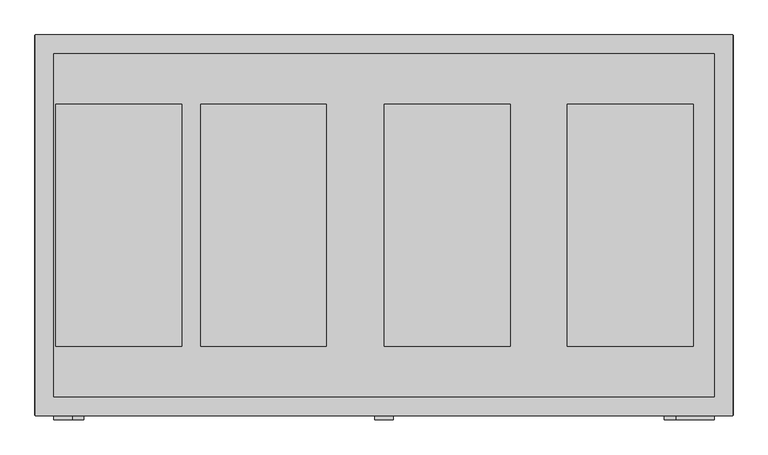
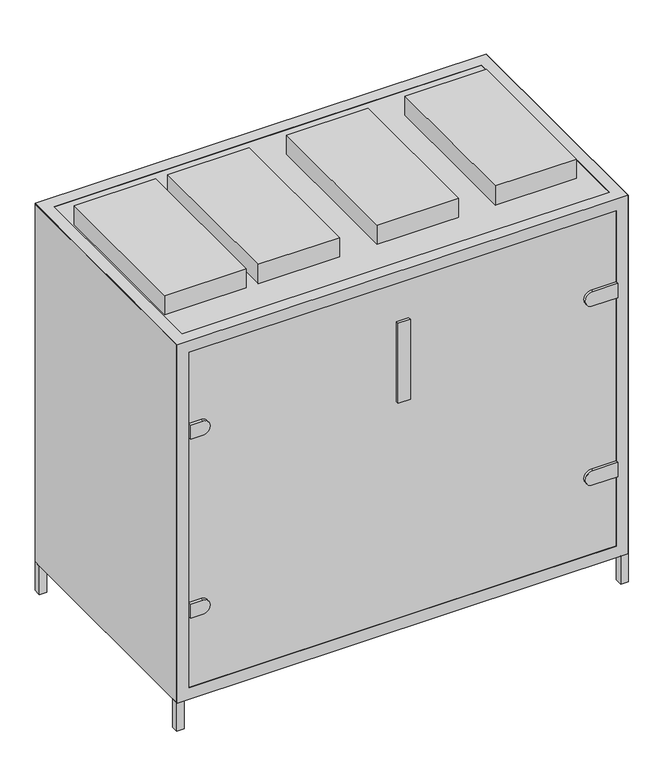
"""IFC4 building model written with IfcOpenShell, lengths in millimetres: proxy geometry, AVS 2200...3800-V-RC(RG) : AVS 2200-V-RG."""

from ifc_helpers import new_model, si_unit, point, frame, frame_2d, origin, origin_with_axes, place, context, project, spatial, polyline, circle_curve, trimmed, segment, composite_curve, outline, extrude, faceted_brep, source, transform, mapped, element, save


def mechanical_equipment_b3972196(model_context):
    return source(origin(), model_context, "Body", "SolidModel", [
        extrude(outline(polyline([(725.0, 408.0), (750.0, 408.0), (750.0, 383.0), (725.0, 383.0), (725.0, 408.0)])), origin_with_axes(), (0.0, 0.0, 1.0), 100.0),
        extrude(outline(polyline([(725.0, -408.0), (725.0, -383.0), (750.0, -383.0), (750.0, -408.0), (725.0, -408.0)])), origin_with_axes(), (0.0, 0.0, 1.0), 100.0),
        extrude(outline(polyline([(-750.0, 383.0), (-750.0, 408.0), (-725.0, 408.0), (-725.0, 383.0), (-750.0, 383.0)])), origin_with_axes(), (0.0, 0.0, 1.0), 100.0),
        extrude(outline(polyline([(-750.0, -383.0), (-725.0, -383.0), (-725.0, -408.0), (-750.0, -408.0), (-750.0, -383.0)])), origin_with_axes(), (0.0, 0.0, 1.0), 100.0),
        faceted_brep([(749.0, 409.0, 1358.0), (-749.0, 409.0, 1358.0), (-749.0, -409.0, 1358.0), (749.0, -409.0, 1358.0), (-710.0, 368.0, 1358.0), (20.0, 368.0, 1358.0), (710.0, 368.0, 1358.0), (710.0, -368.0, 1358.0), (20.0, -368.0, 1358.0), (-710.0, -368.0, 1358.0), (749.0, 409.0, 99.0), (749.0, -409.0, 99.0), (-749.0, -409.0, 99.0), (-749.0, 409.0, 99.0), (20.0, 368.0, 99.0), (-710.0, 368.0, 99.0), (-710.0, -368.0, 99.0), (20.0, -368.0, 99.0), (710.0, -368.0, 99.0), (710.0, 368.0, 99.0), (20.0, 409.0, 1317.0), (-710.0, 409.0, 1317.0), (-710.0, 409.0, 140.0), (20.0, 409.0, 140.0), (710.0, 409.0, 140.0), (710.0, 409.0, 1317.0), (-749.0, -368.0, 1317.0), (-749.0, -368.0, 140.0), (-749.0, 368.0, 140.0), (-749.0, 368.0, 1317.0), (-710.0, -409.0, 1317.0), (20.0, -409.0, 1317.0), (710.0, -409.0, 1317.0), (710.0, -409.0, 140.0), (20.0, -409.0, 140.0), (-710.0, -409.0, 140.0), (749.0, -368.0, 140.0), (749.0, -368.0, 1317.0), (749.0, 368.0, 1317.0), (749.0, 368.0, 140.0), (-710.0, 368.0, 1317.0), (20.0, 368.0, 1317.0), (20.0, 368.0, 140.0), (-710.0, 368.0, 140.0), (20.0, -368.0, 1317.0), (-710.0, -368.0, 1317.0), (-710.0, -368.0, 140.0), (20.0, -368.0, 140.0), (710.0, 368.0, 1317.0), (710.0, -368.0, 1317.0), (710.0, -368.0, 140.0), (710.0, 368.0, 140.0)], [[[0, 1, 2, 3], [4, 5, 6, 7, 8, 9]], [[10, 11, 12, 13], [14, 15, 16, 17, 18, 19]], [[1, 0, 10, 13], [20, 21, 22, 23, 24, 25]], [[2, 1, 13, 12], [26, 27, 28, 29]], [[3, 2, 12, 11], [30, 31, 32, 33, 34, 35]], [[0, 3, 11, 10], [36, 37, 38, 39]], [[5, 4, 40, 41]], [[15, 14, 42, 43]], [[9, 8, 44, 45]], [[17, 16, 46, 47]], [[7, 6, 48, 49]], [[19, 18, 50, 51]], [[32, 49, 50, 33]], [[48, 25, 24, 51]], [[30, 45, 44, 31]], [[20, 41, 40, 21]], [[46, 35, 34, 47]], [[42, 23, 22, 43]], [[26, 45, 46, 27]], [[49, 37, 36, 50]], [[50, 36, 39, 51]], [[43, 28, 27, 46]], [[51, 39, 38, 48]], [[40, 29, 28, 43]], [[37, 49, 48, 38]], [[29, 40, 45, 26]], [[4, 9, 45, 40]], [[16, 15, 43, 46]], [[45, 30, 35, 46]], [[21, 40, 43, 22]], [[6, 5, 41, 48]], [[14, 19, 51, 42]], [[8, 7, 49, 44]], [[18, 17, 47, 50]], [[49, 32, 31, 44]], [[41, 20, 25, 48]], [[33, 50, 47, 34]], [[23, 42, 51, 24]]]),
        extrude(outline(polyline([(-750.0, 408.0), (750.0, 408.0), (750.0, -408.0), (-750.0, -408.0), (-750.0, 408.0)])), frame((0.0, 0.0, 100.0), z_axis=(0.0, 0.0, 1.0), x_axis=(1.0, 0.0, 0.0)), (0.0, 0.0, 1.0), 1257.0),
        extrude(outline(polyline([(-435.0, 260.0), (-435.0, -260.0), (-705.0, -260.0), (-705.0, 260.0), (-435.0, 260.0)])), frame((0.0, 0.0, 1357.0), z_axis=(0.0, 0.0, 1.0), x_axis=(1.0, 0.0, 0.0)), (0.0, 0.0, 1.0), 68.0),
        extrude(outline(polyline([(-124.0, 260.0), (-124.0, -260.0), (-394.0, -260.0), (-394.0, 260.0), (-124.0, 260.0)])), frame((0.0, 0.0, 1357.0), z_axis=(0.0, 0.0, 1.0), x_axis=(1.0, 0.0, 0.0)), (0.0, 0.0, 1.0), 68.0),
        extrude(outline(polyline([(271.0, 260.0), (271.0, -260.0), (1.0, -260.0), (1.0, 260.0), (271.0, 260.0)])), frame((0.0, 0.0, 1357.0), z_axis=(0.0, 0.0, 1.0), x_axis=(1.0, 0.0, 0.0)), (0.0, 0.0, 1.0), 68.0),
        extrude(outline(polyline([(664.0, 260.0), (664.0, -260.0), (394.0, -260.0), (394.0, 260.0), (664.0, 260.0)])), frame((0.0, 0.0, 1357.0), z_axis=(0.0, 0.0, 1.0), x_axis=(1.0, 0.0, 0.0)), (0.0, 0.0, 1.0), 68.0),
        extrude(outline(composite_curve([segment(polyline([(1067.75, -670.2895396), (1067.75, -710.0), (1017.75, -710.0), (1017.75, -670.2895396)]), True, "CONTINUOUS"), segment(trimmed(circle_curve(frame_2d((1042.75, -670.2895396)), 25.0), [point((1017.75, -670.2895396))], [point((1067.75, -670.2895396))], False, "CARTESIAN"), True, "CONTINUOUS")], self_intersect=False)), frame((0.0, -418.0, 0.0), z_axis=(0.0, 1.0, 0.0), x_axis=(0.0, 0.0, 1.0)), (0.0, 0.0, 1.0), 10.0),
        extrude(outline(composite_curve([segment(polyline([(439.25, -670.2895396), (439.25, -710.0), (389.25, -710.0), (389.25, -670.2895396)]), True, "CONTINUOUS"), segment(trimmed(circle_curve(frame_2d((414.25, -670.2895396)), 25.0), [point((389.25, -670.2895396))], [point((439.25, -670.2895396))], False, "CARTESIAN"), True, "CONTINUOUS")], self_intersect=False)), frame((0.0, -418.0, 0.0), z_axis=(0.0, 1.0, 0.0), x_axis=(0.0, 0.0, 1.0)), (0.0, 0.0, 1.0), 10.0),
        extrude(outline(polyline([(20.159373, -418.0), (-20.159373, -418.0), (-20.159373, -408.0), (20.159373, -408.0), (20.159373, -418.0)])), frame((0.0, 0.0, 902.0590991), z_axis=(0.0, 0.0, 1.0), x_axis=(1.0, 0.0, 0.0)), (0.0, 0.0, 1.0), 281.3818018),
        extrude(outline(composite_curve([segment(trimmed(circle_curve(frame_2d((1042.75, 627.2895396)), 25.0), [point((1067.75, 627.2895396))], [point((1017.75, 627.2895396))], False, "CARTESIAN"), True, "CONTINUOUS"), segment(polyline([(1017.75, 627.2895396), (1017.75, 710.0), (1067.75, 710.0), (1067.75, 627.2895396)]), True, "CONTINUOUS")], self_intersect=False)), frame((0.0, -418.0, 0.0), z_axis=(0.0, 1.0, 0.0), x_axis=(0.0, 0.0, 1.0)), (0.0, 0.0, 1.0), 10.0),
        extrude(outline(composite_curve([segment(trimmed(circle_curve(frame_2d((414.25, 627.2895396)), 25.0), [point((439.25, 627.2895396))], [point((389.25, 627.2895396))], False, "CARTESIAN"), True, "CONTINUOUS"), segment(polyline([(389.25, 627.2895396), (389.25, 710.0), (439.25, 710.0), (439.25, 627.2895396)]), True, "CONTINUOUS")], self_intersect=False)), frame((0.0, -418.0, 0.0), z_axis=(0.0, 1.0, 0.0), x_axis=(0.0, 0.0, 1.0)), (0.0, 0.0, 1.0), 10.0),
    ])


if __name__ == "__main__":
    model = new_model("IFC4")
    model_context = context("Model", 3, world=origin())
    ifc_project = project(units=[si_unit("LENGTHUNIT", "METRE", prefix="MILLI")], contexts=[model_context])
    site = spatial("IfcSite", under=ifc_project)
    building = spatial("IfcBuilding", under=site)
    placement = place(None, origin())
    mechanical_equipment_shape = mechanical_equipment_b3972196(model_context)
    element("IfcBuildingElementProxy", 1, Name="AVS 2200...3800-V-RC(RG) : AVS 2200-V-RG", ObjectType="AVS 2200...3800-V-RC(RG) : AVS 2200-V-RG", at=placement, inside=building, context=model_context, shape_type="MappedRepresentation", body=[
        mapped(mechanical_equipment_shape, transform((0.0, 0.0, 0.0), x_axis=(1.0, 0.0, 0.0), y_axis=(0.0, 1.0, 0.0), z_axis=(0.0, 0.0, 1.0))),
    ])
    save(model, "model.ifc")
